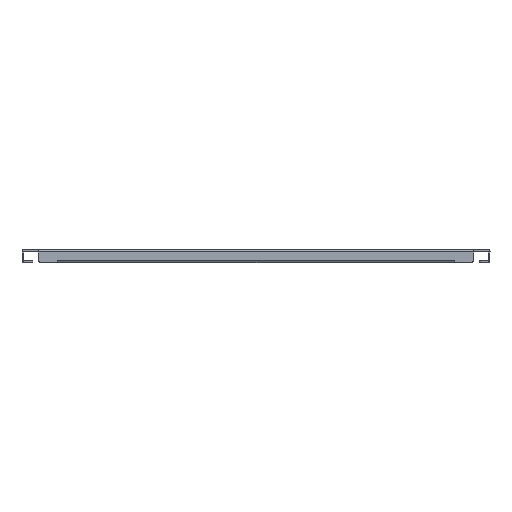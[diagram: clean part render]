
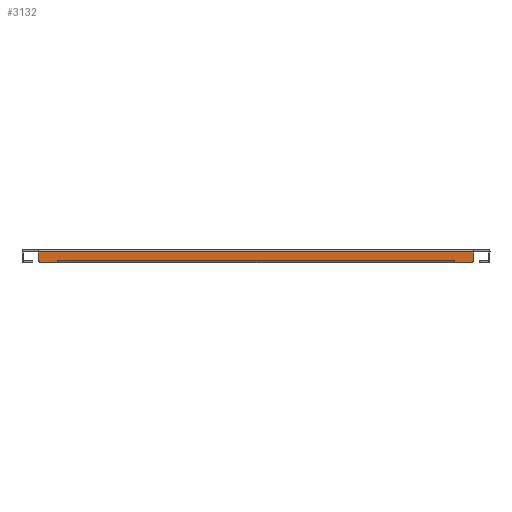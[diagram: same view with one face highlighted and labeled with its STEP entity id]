
A CAD part, front view. The second image highlights one B-rep face of the part: STEP entity #3132.
In plain terms, the highlighted planar face has unit normal (0, -1, 0).
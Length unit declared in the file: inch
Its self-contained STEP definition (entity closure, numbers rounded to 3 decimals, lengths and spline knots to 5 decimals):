
#82=PLANE('',#3407);
#200=FACE_OUTER_BOUND('',#390,.T.);
#390=EDGE_LOOP('',(#2467,#2468,#2469,#2470,#2471,#2472,#2473,#2474,#2475,
#2476,#2477,#2478,#2479,#2480));
#606=LINE('',#4836,#938);
#626=LINE('',#4904,#958);
#644=LINE('',#4965,#976);
#647=LINE('',#4970,#979);
#648=LINE('',#4974,#980);
#649=LINE('',#4976,#981);
#650=LINE('',#4978,#982);
#651=LINE('',#4980,#983);
#652=LINE('',#4982,#984);
#653=LINE('',#4984,#985);
#654=LINE('',#4986,#986);
#655=LINE('',#4987,#987);
#938=VECTOR('',#3897,0.3937);
#958=VECTOR('',#3951,0.3937);
#976=VECTOR('',#4001,0.3937);
#979=VECTOR('',#4006,0.3937);
#980=VECTOR('',#4009,0.3937);
#981=VECTOR('',#4010,0.3937);
#982=VECTOR('',#4011,0.3937);
#983=VECTOR('',#4012,0.3937);
#984=VECTOR('',#4013,0.3937);
#985=VECTOR('',#4014,0.3937);
#986=VECTOR('',#4015,0.3937);
#987=VECTOR('',#4016,0.3937);
#1233=CIRCLE('',#3405,0.125);
#1234=CIRCLE('',#3408,0.125);
#1409=VERTEX_POINT('',#4833);
#1410=VERTEX_POINT('',#4835);
#1440=VERTEX_POINT('',#4901);
#1441=VERTEX_POINT('',#4903);
#1467=VERTEX_POINT('',#4960);
#1468=VERTEX_POINT('',#4964);
#1470=VERTEX_POINT('',#4971);
#1471=VERTEX_POINT('',#4973);
#1472=VERTEX_POINT('',#4975);
#1473=VERTEX_POINT('',#4977);
#1474=VERTEX_POINT('',#4979);
#1475=VERTEX_POINT('',#4981);
#1476=VERTEX_POINT('',#4983);
#1477=VERTEX_POINT('',#4985);
#1772=EDGE_CURVE('',#1410,#1409,#606,.T.);
#1806=EDGE_CURVE('',#1441,#1440,#626,.T.);
#1835=EDGE_CURVE('',#1441,#1467,#1233,.T.);
#1837=EDGE_CURVE('',#1468,#1467,#644,.T.);
#1840=EDGE_CURVE('',#1410,#1440,#647,.T.);
#1841=EDGE_CURVE('',#1470,#1409,#1234,.T.);
#1842=EDGE_CURVE('',#1470,#1471,#648,.T.);
#1843=EDGE_CURVE('',#1471,#1472,#649,.T.);
#1844=EDGE_CURVE('',#1472,#1473,#650,.T.);
#1845=EDGE_CURVE('',#1473,#1474,#651,.T.);
#1846=EDGE_CURVE('',#1474,#1475,#652,.T.);
#1847=EDGE_CURVE('',#1475,#1476,#653,.T.);
#1848=EDGE_CURVE('',#1476,#1477,#654,.T.);
#1849=EDGE_CURVE('',#1477,#1468,#655,.T.);
#2467=ORIENTED_EDGE('',*,*,#1835,.F.);
#2468=ORIENTED_EDGE('',*,*,#1806,.T.);
#2469=ORIENTED_EDGE('',*,*,#1840,.F.);
#2470=ORIENTED_EDGE('',*,*,#1772,.T.);
#2471=ORIENTED_EDGE('',*,*,#1841,.F.);
#2472=ORIENTED_EDGE('',*,*,#1842,.T.);
#2473=ORIENTED_EDGE('',*,*,#1843,.T.);
#2474=ORIENTED_EDGE('',*,*,#1844,.T.);
#2475=ORIENTED_EDGE('',*,*,#1845,.T.);
#2476=ORIENTED_EDGE('',*,*,#1846,.T.);
#2477=ORIENTED_EDGE('',*,*,#1847,.T.);
#2478=ORIENTED_EDGE('',*,*,#1848,.T.);
#2479=ORIENTED_EDGE('',*,*,#1849,.T.);
#2480=ORIENTED_EDGE('',*,*,#1837,.T.);
#3132=ADVANCED_FACE('',(#200),#82,.F.);
#3405=AXIS2_PLACEMENT_3D('',#4961,#3996,#3997);
#3407=AXIS2_PLACEMENT_3D('',#4969,#4004,#4005);
#3408=AXIS2_PLACEMENT_3D('',#4972,#4007,#4008);
#3897=DIRECTION('',(0.,0.,-1.));
#3951=DIRECTION('',(0.,0.,1.));
#3996=DIRECTION('center_axis',(0.,1.,0.));
#3997=DIRECTION('ref_axis',(0.707,0.,-0.707));
#4001=DIRECTION('',(1.,0.,0.));
#4004=DIRECTION('center_axis',(0.,1.,0.));
#4005=DIRECTION('ref_axis',(0.,0.,1.));
#4006=DIRECTION('',(1.,0.,0.));
#4007=DIRECTION('center_axis',(0.,1.,0.));
#4008=DIRECTION('ref_axis',(-0.707,0.,-0.707));
#4009=DIRECTION('',(1.,0.,0.));
#4010=DIRECTION('',(0.,0.,1.));
#4011=DIRECTION('',(1.,0.,0.));
#4012=DIRECTION('',(0.,0.,-1.));
#4013=DIRECTION('',(1.,0.,0.));
#4014=DIRECTION('',(0.,0.,1.));
#4015=DIRECTION('',(1.,0.,0.));
#4016=DIRECTION('',(0.,0.,-1.));
#4833=CARTESIAN_POINT('',(-8.4375,-15.25,-0.319));
#4835=CARTESIAN_POINT('',(-8.4375,-15.25,-0.031));
#4836=CARTESIAN_POINT('',(-8.4375,-15.25,0.068));
#4901=CARTESIAN_POINT('',(8.4375,-15.25,-0.031));
#4903=CARTESIAN_POINT('',(8.4375,-15.25,-0.319));
#4904=CARTESIAN_POINT('',(8.4375,-15.25,-0.444));
#4960=CARTESIAN_POINT('',(8.3125,-15.25,-0.444));
#4961=CARTESIAN_POINT('Origin',(8.3125,-15.25,-0.319));
#4964=CARTESIAN_POINT('',(7.6877,-15.25,-0.444));
#4965=CARTESIAN_POINT('',(-8.4375,-15.25,-0.444));
#4969=CARTESIAN_POINT('Origin',(0.,-15.25,-0.188));
#4970=CARTESIAN_POINT('',(8.4375,-15.25,-0.031));
#4971=CARTESIAN_POINT('',(-8.3125,-15.25,-0.444));
#4972=CARTESIAN_POINT('Origin',(-8.3125,-15.25,-0.319));
#4973=CARTESIAN_POINT('',(-7.6877,-15.25,-0.444));
#4974=CARTESIAN_POINT('',(-8.4375,-15.25,-0.444));
#4975=CARTESIAN_POINT('',(-7.6877,-15.25,-0.3448));
#4976=CARTESIAN_POINT('',(-7.6877,-15.25,-0.316));
#4977=CARTESIAN_POINT('',(-7.6875,-15.25,-0.3448));
#4978=CARTESIAN_POINT('',(-3.84385,-15.25,-0.3448));
#4979=CARTESIAN_POINT('',(-7.6875,-15.25,-0.345));
#4980=CARTESIAN_POINT('',(-7.6875,-15.25,-0.2664));
#4981=CARTESIAN_POINT('',(7.6875,-15.25,-0.345));
#4982=CARTESIAN_POINT('',(3.84375,-15.25,-0.345));
#4983=CARTESIAN_POINT('',(7.6875,-15.25,-0.3448));
#4984=CARTESIAN_POINT('',(7.6875,-15.25,-0.316));
#4985=CARTESIAN_POINT('',(7.6877,-15.25,-0.3448));
#4986=CARTESIAN_POINT('',(3.84375,-15.25,-0.3448));
#4987=CARTESIAN_POINT('',(7.6877,-15.25,-0.2664));
